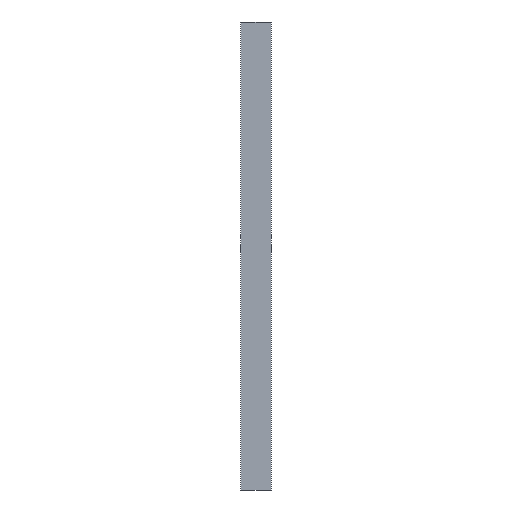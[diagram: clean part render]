
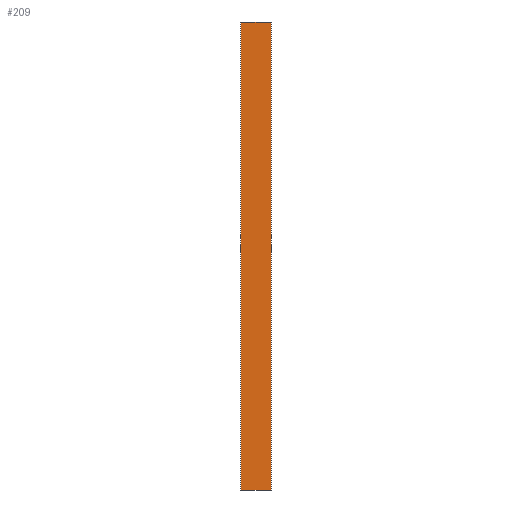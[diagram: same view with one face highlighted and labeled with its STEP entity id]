
A CAD part, left-side view. The second image highlights one B-rep face of the part: STEP entity #209.
In plain terms, the highlighted planar face has unit normal (-1, 0, 0).
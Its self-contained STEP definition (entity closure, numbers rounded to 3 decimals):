
#6 = CARTESIAN_POINT ( 'NONE',  ( -5.25, -15., 0. ) ) ;
#58 = ORIENTED_EDGE ( 'NONE', *, *, #152, .T. ) ;
#59 = ORIENTED_EDGE ( 'NONE', *, *, #140, .T. ) ;
#60 = ORIENTED_EDGE ( 'NONE', *, *, #159, .F. ) ;
#64 = ORIENTED_EDGE ( 'NONE', *, *, #141, .F. ) ;
#81 = EDGE_LOOP ( 'NONE', ( #64, #60, #59, #58 ) ) ;
#107 = LINE ( 'NONE', #322, #115 ) ;
#109 = LINE ( 'NONE', #312, #204 ) ;
#115 = VECTOR ( 'NONE', #311, 1000. ) ;
#128 = AXIS2_PLACEMENT_3D ( 'NONE', #266, #254, #253 ) ;
#140 = EDGE_CURVE ( 'NONE', #313, #301, #107, .T. ) ;
#141 = EDGE_CURVE ( 'NONE', #298, #336, #109, .T. ) ;
#152 = EDGE_CURVE ( 'NONE', #301, #336, #164, .T. ) ;
#159 = EDGE_CURVE ( 'NONE', #313, #298, #174, .T. ) ;
#164 = LINE ( 'NONE', #295, #165 ) ;
#165 = VECTOR ( 'NONE', #294, 1000. ) ;
#174 = LINE ( 'NONE', #282, #175 ) ;
#175 = VECTOR ( 'NONE', #281, 1000. ) ;
#186 = FACE_OUTER_BOUND ( 'NONE', #81, .T. ) ;
#204 = VECTOR ( 'NONE', #308, 1000. ) ;
#209 = ADVANCED_FACE ( 'NONE', ( #186 ), #267, .T. ) ;
#226 = CARTESIAN_POINT ( 'NONE',  ( -5.25, 15., -467.1 ) ) ;
#227 = CARTESIAN_POINT ( 'NONE',  ( -5.25, 15., 0. ) ) ;
#228 = CARTESIAN_POINT ( 'NONE',  ( -5.25, -15., -467.1 ) ) ;
#253 = DIRECTION ( 'NONE',  ( 0., 0., 1. ) ) ;
#254 = DIRECTION ( 'NONE',  ( -1., 0., 0. ) ) ;
#266 = CARTESIAN_POINT ( 'NONE',  ( -5.25, -15., -467.1 ) ) ;
#267 = PLANE ( 'NONE',  #128 ) ;
#281 = DIRECTION ( 'NONE',  ( 0., 0., 1. ) ) ;
#282 = CARTESIAN_POINT ( 'NONE',  ( -5.25, 15., -467.1 ) ) ;
#294 = DIRECTION ( 'NONE',  ( 0., 0., 1. ) ) ;
#295 = CARTESIAN_POINT ( 'NONE',  ( -5.25, -15., -467.1 ) ) ;
#298 = VERTEX_POINT ( 'NONE', #227 ) ;
#301 = VERTEX_POINT ( 'NONE', #228 ) ;
#308 = DIRECTION ( 'NONE',  ( 0., -1., 0. ) ) ;
#311 = DIRECTION ( 'NONE',  ( 0., -1., 0. ) ) ;
#312 = CARTESIAN_POINT ( 'NONE',  ( -5.25, -15., 0. ) ) ;
#313 = VERTEX_POINT ( 'NONE', #226 ) ;
#322 = CARTESIAN_POINT ( 'NONE',  ( -5.25, -15., -467.1 ) ) ;
#336 = VERTEX_POINT ( 'NONE', #6 ) ;
